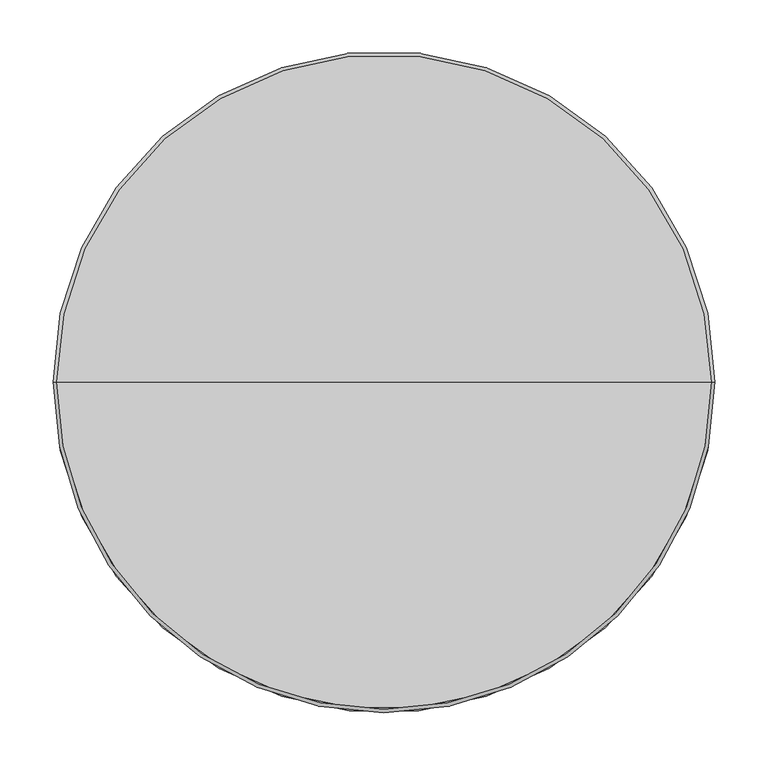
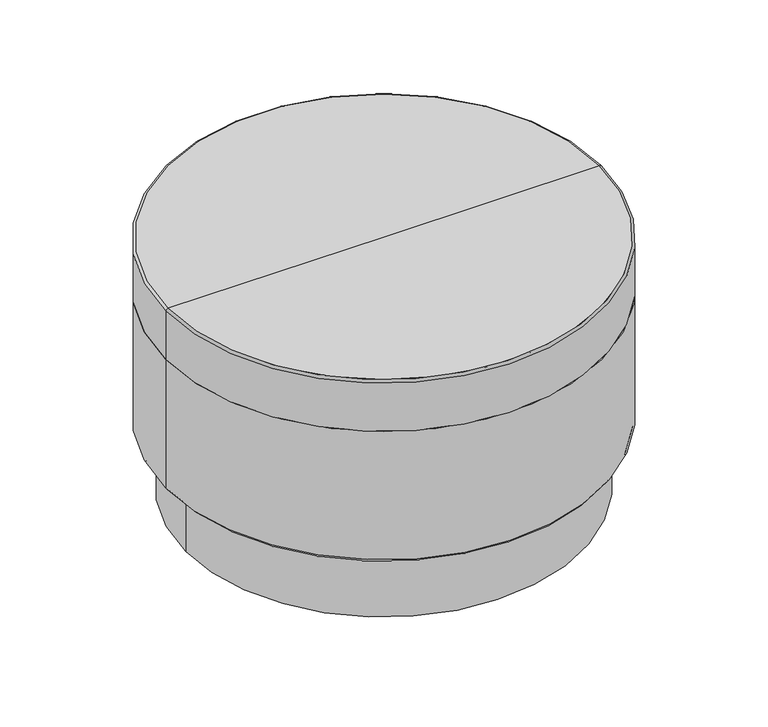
"""IFC4 building model written with IfcOpenShell, lengths in millimetres: furniture geometry, StanceHC-Drum_Table-Plinth_Base : 3-DRT24D16-U-PL."""

from ifc_helpers import new_model, si_unit, point, frame, frame_2d, origin, origin_with_axes, place, context, project, spatial, circle_curve, ellipse_curve, trimmed, segment, composite_curve, outline, extrude, source, transform, mapped, element, save
from ifc_brep_helpers import plane_surface, cylinder_surface, revolved_surface, advanced_brep


def furniture_4d828981(model_context):
    return source(origin(), model_context, "Body", "SolidModel", [
        extrude(outline(composite_curve([segment(trimmed(circle_curve(frame_2d((0.0, 250.1164845)), 12.7), [point((-12.7, 250.1164845))], [point((12.7, 250.1164845))], False, "CARTESIAN"), True, "CONTINUOUS"), segment(trimmed(circle_curve(frame_2d((0.0, 250.1164845)), 12.7), [point((12.7, 250.1164845))], [point((-12.7, 250.1164845))], False, "CARTESIAN"), True, "CONTINUOUS")], self_intersect=False)), origin_with_axes(), (0.0, 0.0, 1.0), 4.7625),
        extrude(outline(composite_curve([segment(trimmed(circle_curve(frame_2d((0.0, -250.1164845)), 12.7), [point((-12.7, -250.1164845))], [point((12.7, -250.1164845))], False, "CARTESIAN"), True, "CONTINUOUS"), segment(trimmed(circle_curve(frame_2d((0.0, -250.1164845)), 12.7), [point((12.7, -250.1164845))], [point((-12.7, -250.1164845))], False, "CARTESIAN"), True, "CONTINUOUS")], self_intersect=False)), origin_with_axes(), (0.0, 0.0, 1.0), 4.7625),
        extrude(outline(composite_curve([segment(trimmed(circle_curve(frame_2d((253.9996404, 0.0)), 12.7), [point((241.2996404, 0.0))], [point((266.6996404, 0.0))], False, "CARTESIAN"), True, "CONTINUOUS"), segment(trimmed(circle_curve(frame_2d((253.9996404, 0.0)), 12.7), [point((266.6996404, 0.0))], [point((241.2996404, 0.0))], False, "CARTESIAN"), True, "CONTINUOUS")], self_intersect=False)), origin_with_axes(), (0.0, 0.0, 1.0), 4.7625),
        extrude(outline(composite_curve([segment(trimmed(circle_curve(frame_2d((-253.9996404, 0.0)), 12.7), [point((-266.6996404, 0.0))], [point((-241.2996404, 0.0))], False, "CARTESIAN"), True, "CONTINUOUS"), segment(trimmed(circle_curve(frame_2d((-253.9996404, 0.0)), 12.7), [point((-241.2996404, 0.0))], [point((-266.6996404, 0.0))], False, "CARTESIAN"), True, "CONTINUOUS")], self_intersect=False)), origin_with_axes(), (0.0, 0.0, 1.0), 4.7625),
        advanced_brep(
        [(-306.3542756, 0.0, 106.3625), (306.3542756, 0.0, 106.3625), (282.5746404, 0.0, 106.3625), (-282.5746404, 0.0, 106.3625), (-306.3542756, 0.0, 111.125), (306.3542756, 0.0, 111.125), (0.0, 0.0, 111.125), (-282.5746404, 0.0, 4.7625), (282.5746404, 0.0, 4.7625), (0.0, 0.0, 4.7625)],
        [
            (0, 1, circle_curve(frame((0.0, 0.0, 106.3625), z_axis=(0.0, 0.0, -1.0), x_axis=(1.0, 0.0, 0.0)), 306.3542756)),
            (1, 2),
            (2, 3, circle_curve(frame((0.0, 0.0, 106.3625), z_axis=(0.0, 0.0, 1.0), x_axis=(1.0, 0.0, 0.0)), 282.5746404)),
            (3, 0),
            (1, 0, circle_curve(frame((0.0, 0.0, 106.3625), z_axis=(0.0, 0.0, -1.0), x_axis=(1.0, 0.0, 0.0)), 306.3542756)),
            (3, 2, circle_curve(frame((0.0, 0.0, 106.3625), z_axis=(0.0, 0.0, 1.0), x_axis=(1.0, 0.0, 0.0)), 282.5746404)),
            (4, 5, circle_curve(frame((0.0, 0.0, 111.125), z_axis=(0.0, 0.0, -1.0), x_axis=(1.0, 0.0, 0.0)), 306.3542756)),
            (5, 1, circle_curve(frame((306.3542756, 0.0, 108.74375), z_axis=(0.0, 1.0, 0.0), x_axis=(1.0, 0.0, 0.0)), 2.38125)),
            (0, 4, circle_curve(frame((-306.3542756, 0.0, 108.74375), z_axis=(0.0, 1.0, 0.0), x_axis=(-1.0, 0.0, 0.0)), 2.38125)),
            (5, 4, circle_curve(frame((0.0, 0.0, 111.125), z_axis=(0.0, 0.0, -1.0), x_axis=(1.0, 0.0, 0.0)), 306.3542756)),
            (6, 5),
            (4, 6),
            (7, 8, circle_curve(frame((0.0, 0.0, 4.7625), z_axis=(0.0, 0.0, -1.0), x_axis=(1.0, 0.0, 0.0)), 282.5746404)),
            (8, 9),
            (9, 7),
            (8, 7, circle_curve(frame((0.0, 0.0, 4.7625), z_axis=(0.0, 0.0, -1.0), x_axis=(1.0, 0.0, 0.0)), 282.5746404)),
            (2, 8),
            (7, 3),
        ],
        [
            plane_surface(frame((0.0, 0.0, 106.3625), z_axis=(0.0, 0.0, -1.0), x_axis=(1.0, 0.0, 0.0))),
            revolved_surface(trimmed(ellipse_curve(frame((306.3542756, 0.0, 108.74375), z_axis=(0.0, -1.0, 0.0), x_axis=(1.0, 0.0, 0.0)), 2.38125, 2.38125), [point((306.3542756, 0.0, 106.3625))], [point((306.3542756, 0.0, 111.125))], True, "CARTESIAN"), (0.0, 0.0, 165.1), (0.0, 0.0, 1.0)),
            plane_surface(frame((0.0, 0.0, 111.125), z_axis=(0.0, 0.0, 1.0), x_axis=(1.0, 0.0, 0.0))),
            plane_surface(frame((0.0, 0.0, 4.7625), z_axis=(0.0, 0.0, -1.0), x_axis=(1.0, 0.0, 0.0))),
            cylinder_surface(frame((0.0, 0.0, 165.1), z_axis=(0.0, 0.0, 1.0), x_axis=(1.0, 0.0, 0.0)), 282.5746404),
        ],
        [
            (0, [[1, 2, 3, 4]]),
            (0, [[5, -4, 6, -2]]),
            (1, [[7, 8, -1, 9]]),
            (1, [[10, -9, -5, -8]]),
            (2, [[11, -7, 12]]),
            (2, [[-12, -10, -11]]),
            (3, [[13, 14, 15]]),
            (3, [[16, -15, -14]]),
            (4, [[-3, 17, -13, 18]]),
            (4, [[-6, -18, -16, -17]]),
        ],
    ),
        advanced_brep(
        [(0.0, 0.0, 304.8), (311.15, 0.0, 304.8), (-311.15, 0.0, 304.8), (-311.15, 0.0, 111.125), (311.15, 0.0, 111.125), (0.0, 0.0, 111.125)],
        [
            (0, 1),
            (1, 2, circle_curve(frame((0.0, 0.0, 304.8), z_axis=(0.0, 0.0, 1.0), x_axis=(1.0, 0.0, 0.0)), 311.15)),
            (2, 0),
            (2, 1, circle_curve(frame((0.0, 0.0, 304.8), z_axis=(0.0, 0.0, 1.0), x_axis=(1.0, 0.0, 0.0)), 311.15)),
            (3, 4, circle_curve(frame((0.0, 0.0, 111.125), z_axis=(0.0, 0.0, -1.0), x_axis=(1.0, 0.0, 0.0)), 311.15)),
            (4, 5),
            (5, 3),
            (4, 3, circle_curve(frame((0.0, 0.0, 111.125), z_axis=(0.0, 0.0, -1.0), x_axis=(1.0, 0.0, 0.0)), 311.15)),
            (1, 4),
            (3, 2),
        ],
        [
            plane_surface(frame((0.0, 0.0, 304.8), z_axis=(0.0, 0.0, 1.0), x_axis=(1.0, 0.0, 0.0))),
            plane_surface(frame((0.0, 0.0, 111.125), z_axis=(0.0, 0.0, -1.0), x_axis=(1.0, 0.0, 0.0))),
            cylinder_surface(frame((0.0, 0.0, 457.2), z_axis=(0.0, 0.0, 1.0), x_axis=(1.0, 0.0, 0.0)), 311.15),
        ],
        [
            (0, [[1, 2, 3]]),
            (0, [[-3, 4, -1]]),
            (1, [[5, 6, 7]]),
            (1, [[8, -7, -6]]),
            (2, [[-2, 9, -5, 10]]),
            (2, [[-4, -10, -8, -9]]),
        ],
    ),
        advanced_brep(
        [(-311.15, 0.0, 304.8), (311.15, 0.0, 304.8), (0.0, 0.0, 304.8), (-311.15, 0.0, 377.8764933), (311.15, 0.0, 377.8764933), (-308.0264933, 0.0, 381.0), (308.0264933, 0.0, 381.0), (0.0, 0.0, 381.0)],
        [
            (0, 1, circle_curve(frame((0.0, 0.0, 304.8), z_axis=(0.0, 0.0, -1.0), x_axis=(1.0, 0.0, 0.0)), 311.15)),
            (1, 2),
            (2, 0),
            (1, 0, circle_curve(frame((0.0, 0.0, 304.8), z_axis=(0.0, 0.0, -1.0), x_axis=(1.0, 0.0, 0.0)), 311.15)),
            (3, 4, circle_curve(frame((0.0, 0.0, 377.8764933), z_axis=(0.0, 0.0, -1.0), x_axis=(1.0, 0.0, 0.0)), 311.15)),
            (4, 1),
            (0, 3),
            (4, 3, circle_curve(frame((0.0, 0.0, 377.8764933), z_axis=(0.0, 0.0, -1.0), x_axis=(1.0, 0.0, 0.0)), 311.15)),
            (5, 6, circle_curve(frame((0.0, 0.0, 381.0), z_axis=(0.0, 0.0, -1.0), x_axis=(1.0, 0.0, 0.0)), 308.0264933)),
            (6, 4, circle_curve(frame((308.0264933, 0.0, 377.8764933), z_axis=(0.0, 1.0, 0.0), x_axis=(1.0, 0.0, 0.0)), 3.1235067)),
            (3, 5, circle_curve(frame((-308.0264933, 0.0, 377.8764933), z_axis=(0.0, 1.0, 0.0), x_axis=(-1.0, 0.0, 0.0)), 3.1235067)),
            (6, 5, circle_curve(frame((0.0, 0.0, 381.0), z_axis=(0.0, 0.0, -1.0), x_axis=(1.0, 0.0, 0.0)), 308.0264933)),
            (7, 6),
            (5, 7),
        ],
        [
            plane_surface(frame((0.0, 0.0, 304.8), z_axis=(0.0, 0.0, -1.0), x_axis=(1.0, 0.0, 0.0))),
            cylinder_surface(frame((0.0, 0.0, 476.25), z_axis=(0.0, 0.0, 1.0), x_axis=(1.0, 0.0, 0.0)), 311.15),
            revolved_surface(trimmed(ellipse_curve(frame((308.0264933, 0.0, 377.8764933), z_axis=(0.0, -1.0, 0.0), x_axis=(1.0, 0.0, 0.0)), 3.1235067, 3.1235067), [point((311.15, 0.0, 377.8764933))], [point((308.0264933, 0.0, 381.0))], True, "CARTESIAN"), (0.0, 0.0, 476.25), (0.0, 0.0, 1.0)),
            plane_surface(frame((0.0, 0.0, 381.0), z_axis=(0.0, 0.0, 1.0), x_axis=(1.0, 0.0, 0.0))),
        ],
        [
            (0, [[1, 2, 3]]),
            (0, [[4, -3, -2]]),
            (1, [[5, 6, -1, 7]]),
            (1, [[8, -7, -4, -6]]),
            (2, [[9, 10, -5, 11]]),
            (2, [[12, -11, -8, -10]]),
            (3, [[13, -9, 14]]),
            (3, [[-14, -12, -13]]),
        ],
    ),
    ])


if __name__ == "__main__":
    model = new_model("IFC4")
    model_context = context("Model", 3, world=origin())
    ifc_project = project(units=[si_unit("LENGTHUNIT", "METRE", prefix="MILLI")], contexts=[model_context])
    site = spatial("IfcSite", under=ifc_project)
    building = spatial("IfcBuilding", under=site)
    placement = place(None, origin())
    furniture_shape = furniture_4d828981(model_context)
    element("IfcFurniture", 1, ObjectType="StanceHC-Drum_Table-Plinth_Base : 3-DRT24D16-U-PL", at=placement, inside=building, context=model_context, shape_type="MappedRepresentation", body=[
        mapped(furniture_shape, transform((0.0, 0.0, 0.0), x_axis=(1.0, 0.0, 0.0), y_axis=(0.0, 1.0, 0.0), z_axis=(0.0, 0.0, 1.0))),
    ])
    save(model, "model.ifc")
